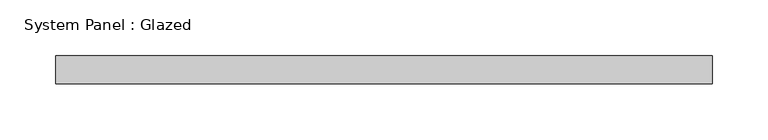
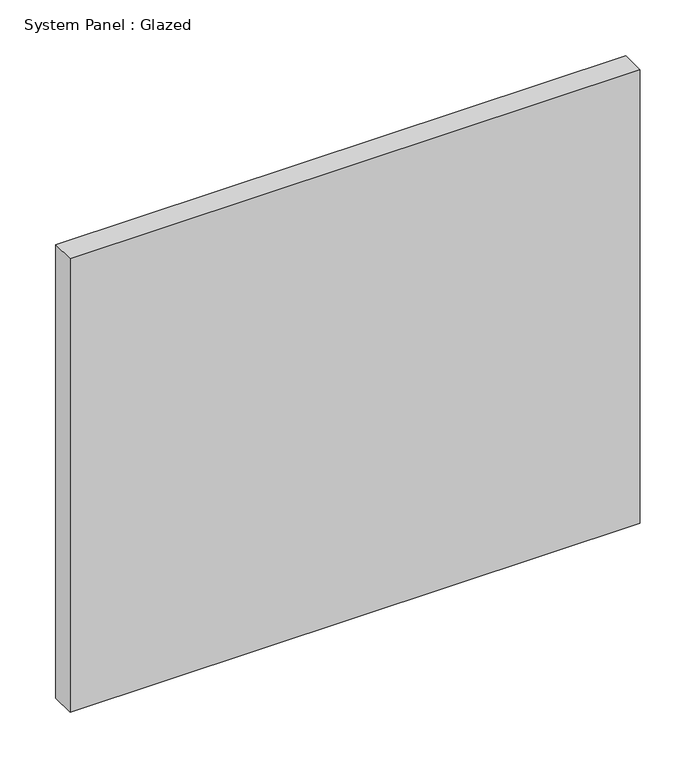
"""IFC4 building model written with IfcOpenShell, lengths in millimetres: plate geometry, System Panel : Glazed."""

from ifc_helpers import new_model, si_unit, origin, origin_with_axes, place, context, project, spatial, polyline, outline, extrude, source, transform, mapped, element, save


def system_panel_glazed_1e68634a(model_context):
    return source(origin(), model_context, "Body", "SweptSolid", [
        extrude(outline(polyline([(294.7449409, -12.7), (-294.7449409, -12.7), (-294.7449409, 12.7), (294.7449409, 12.7), (294.7449409, -12.7)])), origin_with_axes(), (0.0, 0.0, 1.0), 495.3),
    ])


if __name__ == "__main__":
    model = new_model("IFC4")
    model_context = context("Model", 3, world=origin())
    ifc_project = project(units=[si_unit("LENGTHUNIT", "METRE", prefix="MILLI")], contexts=[model_context])
    site = spatial("IfcSite", under=ifc_project)
    building = spatial("IfcBuilding", under=site)
    placement = place(None, origin())
    system_panel_glazed_shape = system_panel_glazed_1e68634a(model_context)
    element("IfcPlate", 1, ObjectType="System Panel : Glazed", at=placement, inside=building, context=model_context, shape_type="MappedRepresentation", body=[
        mapped(system_panel_glazed_shape, transform((0.0, 0.0, 0.0), x_axis=(1.0, 0.0, 0.0), y_axis=(0.0, 1.0, 0.0), z_axis=(0.0, 0.0, 1.0))),
    ])
    save(model, "model.ifc")
